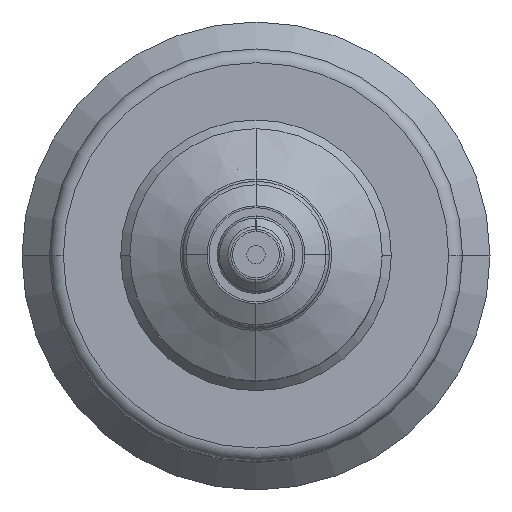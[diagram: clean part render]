
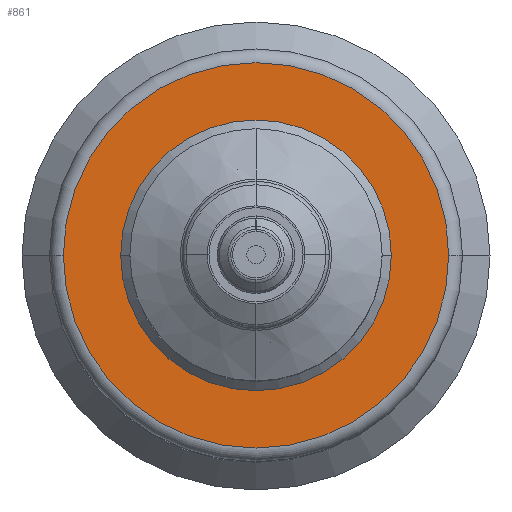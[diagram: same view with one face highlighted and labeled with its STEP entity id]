
A CAD part, top view. The second image highlights one B-rep face of the part: STEP entity #861.
In plain terms, the highlighted planar face has unit normal (0, 0, 1).
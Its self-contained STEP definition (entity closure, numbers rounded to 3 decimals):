
#42 = AXIS2_PLACEMENT_3D ( 'NONE', #8693, #9965, #10107 ) ;
#66 = VERTEX_POINT ( 'NONE', #12849 ) ;
#176 = DIRECTION ( 'NONE',  ( 0., 0., 1. ) ) ;
#861 = ADVANCED_FACE ( 'NONE', ( #12177, #3955 ), #12620, .T. ) ;
#864 = AXIS2_PLACEMENT_3D ( 'NONE', #4061, #4100, #8385 ) ;
#1039 = EDGE_LOOP ( 'NONE', ( #8481, #3392 ) ) ;
#1760 = EDGE_CURVE ( 'NONE', #7364, #66, #5313, .T. ) ;
#1995 = DIRECTION ( 'NONE',  ( 0., 0., -1. ) ) ;
#2352 = EDGE_CURVE ( 'NONE', #66, #7364, #5766, .T. ) ;
#2595 = CIRCLE ( 'NONE', #864, 42. ) ;
#3223 = CARTESIAN_POINT ( 'NONE',  ( -29.5, 0., 130. ) ) ;
#3392 = ORIENTED_EDGE ( 'NONE', *, *, #3535, .F. ) ;
#3522 = CARTESIAN_POINT ( 'NONE',  ( -42., 0., 130. ) ) ;
#3535 = EDGE_CURVE ( 'NONE', #3906, #13286, #2595, .T. ) ;
#3906 = VERTEX_POINT ( 'NONE', #11232 ) ;
#3955 = FACE_OUTER_BOUND ( 'NONE', #1039, .T. ) ;
#4061 = CARTESIAN_POINT ( 'NONE',  ( 0., 0., 130. ) ) ;
#4100 = DIRECTION ( 'NONE',  ( 0., 0., -1. ) ) ;
#4629 = CIRCLE ( 'NONE', #12499, 42. ) ;
#5313 = CIRCLE ( 'NONE', #8642, 29.5 ) ;
#5766 = CIRCLE ( 'NONE', #42, 29.5 ) ;
#7160 = DIRECTION ( 'NONE',  ( -1., 0., 0. ) ) ;
#7291 = CARTESIAN_POINT ( 'NONE',  ( 0., 0., 130. ) ) ;
#7357 = DIRECTION ( 'NONE',  ( 1., 0., 0. ) ) ;
#7364 = VERTEX_POINT ( 'NONE', #10136 ) ;
#8195 = CARTESIAN_POINT ( 'NONE',  ( 0., 0., 130. ) ) ;
#8295 = EDGE_LOOP ( 'NONE', ( #9608, #8462 ) ) ;
#8385 = DIRECTION ( 'NONE',  ( -1., 0., 0. ) ) ;
#8462 = ORIENTED_EDGE ( 'NONE', *, *, #2352, .T. ) ;
#8481 = ORIENTED_EDGE ( 'NONE', *, *, #10646, .F. ) ;
#8642 = AXIS2_PLACEMENT_3D ( 'NONE', #7291, #12270, #7160 ) ;
#8693 = CARTESIAN_POINT ( 'NONE',  ( 0., 0., 130. ) ) ;
#9222 = DIRECTION ( 'NONE',  ( -1., 0., 0. ) ) ;
#9608 = ORIENTED_EDGE ( 'NONE', *, *, #1760, .T. ) ;
#9644 = AXIS2_PLACEMENT_3D ( 'NONE', #3223, #176, #7357 ) ;
#9965 = DIRECTION ( 'NONE',  ( 0., 0., -1. ) ) ;
#10107 = DIRECTION ( 'NONE',  ( -1., 0., 0. ) ) ;
#10136 = CARTESIAN_POINT ( 'NONE',  ( -29.5, 0., 130. ) ) ;
#10646 = EDGE_CURVE ( 'NONE', #13286, #3906, #4629, .T. ) ;
#11232 = CARTESIAN_POINT ( 'NONE',  ( 42., 0., 130. ) ) ;
#12177 = FACE_BOUND ( 'NONE', #8295, .T. ) ;
#12270 = DIRECTION ( 'NONE',  ( 0., 0., -1. ) ) ;
#12499 = AXIS2_PLACEMENT_3D ( 'NONE', #8195, #1995, #9222 ) ;
#12620 = PLANE ( 'NONE',  #9644 ) ;
#12849 = CARTESIAN_POINT ( 'NONE',  ( 29.5, 0., 130. ) ) ;
#13286 = VERTEX_POINT ( 'NONE', #3522 ) ;
